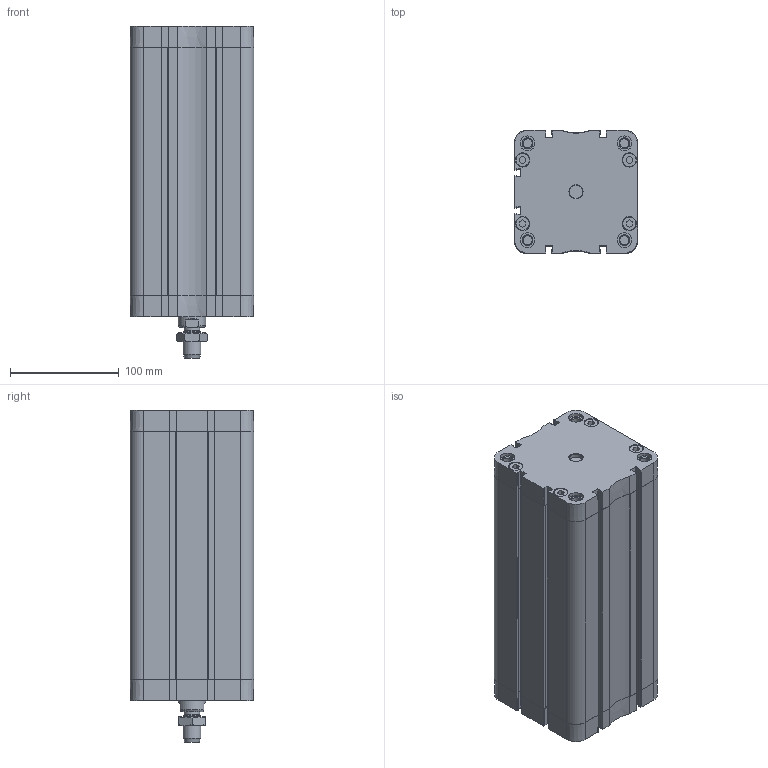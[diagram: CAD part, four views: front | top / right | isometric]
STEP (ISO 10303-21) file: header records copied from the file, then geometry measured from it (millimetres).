
FILE_DESCRIPTION(/* description */ ('Unknown'),/* implementation_level */ '2;1');
FILE_NAME(/* name */ 'ZIF 100_200',/* time_stamp */ '2024-11-12T12:56:10+01:00',/* author */ ('Unknown'),/* organization */ ('HAFNER Pneumatika Kft.'),/* preprocessor_version */ 'ST-DEVELOPER v18.102',/* originating_system */ 'Solid Edge',/* authorisation */ 'Unknown');
FILE_SCHEMA (('AUTOMOTIVE_DESIGN {1 0 10303 214 3 1 1}'));
Length unit declared in the file: millimetre
Products named in the file (6): ZIF 100_200; Kit_1; Profilrohr; Kit_2; Kolbenstange; Mutter
Assembly tree (5 placements, depth 2):
  ZIF 100_200
    Kit_1
    Profilrohr
    Kit_2
    Kolbenstange
    Mutter
Bounding box: 113.5 x 113.5 x 305 mm (x, y, z)
Volume: 1833386.4 mm3; surface area: 327234.9 mm2
Topology: 5 solids, 5 shells, 768 faces, 2044 edges, 1352 vertices
Faces by surface type: plane 360, cylinder 216, bspline 114, cone 56, torus 22
Full cylindrical faces by diameter (mm): 8.376 x8, 8.566 x2, 12 x1, 12.7 x4, 13.1 x8, 13.5 x8, 14 x1, 14.376 x1, 16 x1, 25 x1, 25.6 x1, 26.9 x1, 28 x1, 29.8 x1, 30 x1, 100 x2
Entity records: 28935 total; most frequent: CARTESIAN_POINT 6069, ORIENTED_EDGE 3838, DIRECTION 3478, EDGE_CURVE 1919, VERTEX_POINT 1317, AXIS2_PLACEMENT_3D 1185, LINE 1108, VECTOR 1108
